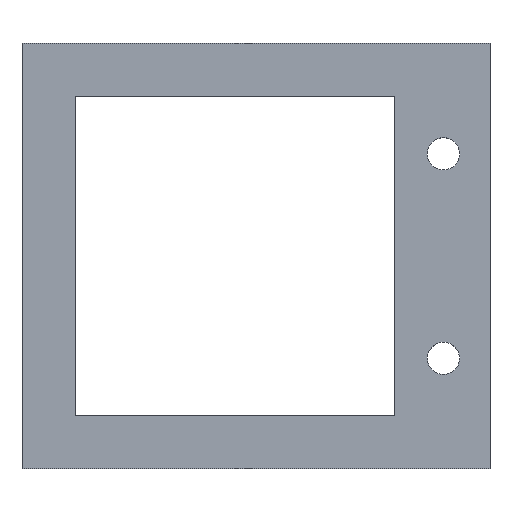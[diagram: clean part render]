
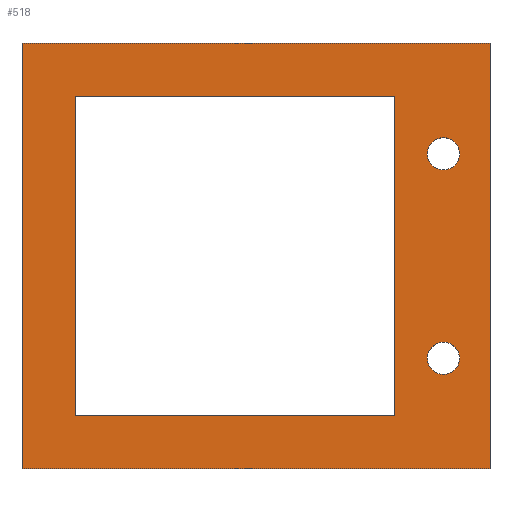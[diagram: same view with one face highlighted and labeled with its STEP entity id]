
A CAD part, top view. The second image highlights one B-rep face of the part: STEP entity #518.
In plain terms, the highlighted planar face has unit normal (0, 0, 1).
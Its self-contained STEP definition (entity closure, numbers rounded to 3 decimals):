
#423=CARTESIAN_POINT('',(2.,0.,4.));
#424=DIRECTION('',(0.,0.,1.));
#425=DIRECTION('',(1.,0.,0.));
#426=AXIS2_PLACEMENT_3D('',#423,#424,#425);
#427=PLANE('',#426);
#428=CARTESIAN_POINT('',(21.14,9.6,4.));
#429=VERTEX_POINT('',#428);
#430=CARTESIAN_POINT('',(19.625,9.6,4.));
#431=DIRECTION('',(0.,0.,-1.));
#432=DIRECTION('',(1.,0.,0.));
#433=AXIS2_PLACEMENT_3D('',#430,#431,#432);
#434=CIRCLE('',#433,1.515);
#435=EDGE_CURVE('',#429,#429,#434,.T.);
#436=ORIENTED_EDGE('',*,*,#435,.T.);
#437=EDGE_LOOP('',(#436));
#438=FACE_BOUND('',#437,.T.);
#439=CARTESIAN_POINT('',(21.14,-9.62,4.));
#440=VERTEX_POINT('',#439);
#441=CARTESIAN_POINT('',(19.625,-9.62,4.));
#442=DIRECTION('',(0.,0.,-1.));
#443=DIRECTION('',(1.,0.,0.));
#444=AXIS2_PLACEMENT_3D('',#441,#442,#443);
#445=CIRCLE('',#444,1.515);
#446=EDGE_CURVE('',#440,#440,#445,.T.);
#447=ORIENTED_EDGE('',*,*,#446,.T.);
#448=EDGE_LOOP('',(#447));
#449=FACE_BOUND('',#448,.T.);
#450=CARTESIAN_POINT('',(15.,-15.,4.));
#451=VERTEX_POINT('',#450);
#452=CARTESIAN_POINT('',(-15.,-15.,4.));
#453=VERTEX_POINT('',#452);
#454=CARTESIAN_POINT('',(15.,-15.,4.));
#455=DIRECTION('',(-1.,0.,0.));
#456=VECTOR('',#455,30.);
#457=LINE('',#454,#456);
#458=EDGE_CURVE('',#451,#453,#457,.T.);
#459=ORIENTED_EDGE('',*,*,#458,.T.);
#460=CARTESIAN_POINT('',(-15.,15.,4.));
#461=VERTEX_POINT('',#460);
#462=CARTESIAN_POINT('',(-15.,-15.,4.));
#463=DIRECTION('',(0.,1.,0.));
#464=VECTOR('',#463,30.);
#465=LINE('',#462,#464);
#466=EDGE_CURVE('',#453,#461,#465,.T.);
#467=ORIENTED_EDGE('',*,*,#466,.T.);
#468=CARTESIAN_POINT('',(15.,15.,4.));
#469=VERTEX_POINT('',#468);
#470=CARTESIAN_POINT('',(-15.,15.,4.));
#471=DIRECTION('',(1.,0.,-0.));
#472=VECTOR('',#471,30.);
#473=LINE('',#470,#472);
#474=EDGE_CURVE('',#461,#469,#473,.T.);
#475=ORIENTED_EDGE('',*,*,#474,.T.);
#476=CARTESIAN_POINT('',(15.,15.,4.));
#477=DIRECTION('',(0.,-1.,0.));
#478=VECTOR('',#477,30.);
#479=LINE('',#476,#478);
#480=EDGE_CURVE('',#469,#451,#479,.T.);
#481=ORIENTED_EDGE('',*,*,#480,.T.);
#482=EDGE_LOOP('',(#459,#467,#475,#481));
#483=FACE_BOUND('',#482,.T.);
#484=CARTESIAN_POINT('',(24.,-20.,4.));
#485=VERTEX_POINT('',#484);
#486=CARTESIAN_POINT('',(-20.,-20.,4.));
#487=VERTEX_POINT('',#486);
#488=CARTESIAN_POINT('',(24.,-20.,4.));
#489=DIRECTION('',(-1.,0.,0.));
#490=VECTOR('',#489,44.);
#491=LINE('',#488,#490);
#492=EDGE_CURVE('',#485,#487,#491,.T.);
#493=ORIENTED_EDGE('',*,*,#492,.F.);
#494=CARTESIAN_POINT('',(24.,20.,4.));
#495=VERTEX_POINT('',#494);
#496=CARTESIAN_POINT('',(24.,20.,4.));
#497=DIRECTION('',(0.,-1.,0.));
#498=VECTOR('',#497,40.);
#499=LINE('',#496,#498);
#500=EDGE_CURVE('',#495,#485,#499,.T.);
#501=ORIENTED_EDGE('',*,*,#500,.F.);
#502=CARTESIAN_POINT('',(-20.,20.,4.));
#503=VERTEX_POINT('',#502);
#504=CARTESIAN_POINT('',(-20.,20.,4.));
#505=DIRECTION('',(1.,0.,-0.));
#506=VECTOR('',#505,44.);
#507=LINE('',#504,#506);
#508=EDGE_CURVE('',#503,#495,#507,.T.);
#509=ORIENTED_EDGE('',*,*,#508,.F.);
#510=CARTESIAN_POINT('',(-20.,-20.,4.));
#511=DIRECTION('',(0.,1.,0.));
#512=VECTOR('',#511,40.);
#513=LINE('',#510,#512);
#514=EDGE_CURVE('',#487,#503,#513,.T.);
#515=ORIENTED_EDGE('',*,*,#514,.F.);
#516=EDGE_LOOP('',(#493,#501,#509,#515));
#517=FACE_BOUND('',#516,.T.);
#518=ADVANCED_FACE('',(#438,#449,#483,#517),#427,.T.);
